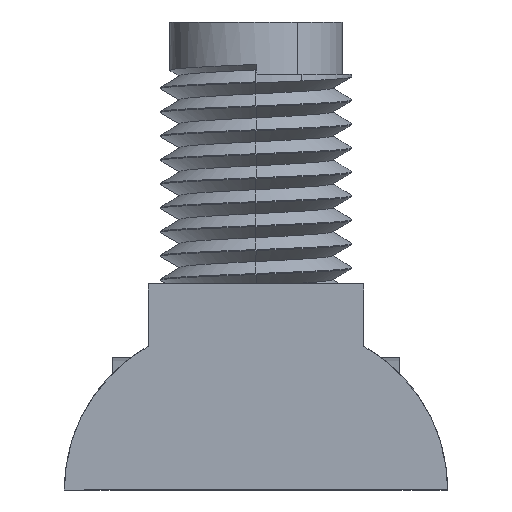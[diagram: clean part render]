
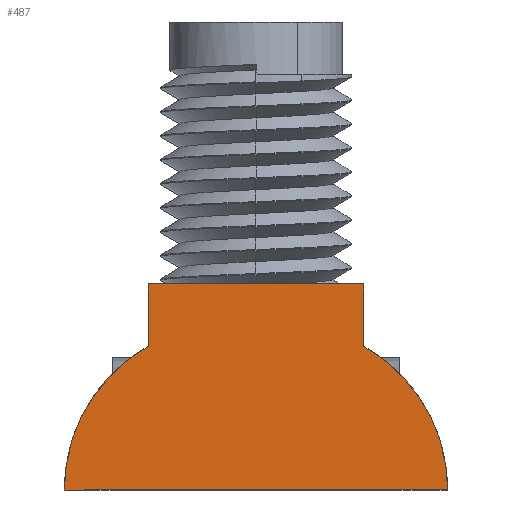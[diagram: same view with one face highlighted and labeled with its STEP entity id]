
A CAD part, front view. The second image highlights one B-rep face of the part: STEP entity #487.
In plain terms, the highlighted planar face has unit normal (0, -1, 0).
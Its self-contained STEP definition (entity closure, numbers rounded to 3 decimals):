
#156=CARTESIAN_POINT('Vertex',(4.,-6.5,0.)) ;
#159=CARTESIAN_POINT('Line Origine',(0.,-6.5,0.)) ;
#163=CARTESIAN_POINT('Vertex',(-4.,-6.5,0.)) ;
#411=CARTESIAN_POINT('Line Origine',(0.,-6.5,4.3)) ;
#415=CARTESIAN_POINT('Vertex',(-2.25,-6.5,4.3)) ;
#417=CARTESIAN_POINT('Vertex',(2.25,-6.5,4.3)) ;
#450=CARTESIAN_POINT('Axis2P3D Location',(0.,-6.5,0.)) ;
#455=CARTESIAN_POINT('Axis2P3D Location',(0.554,-6.5,0.)) ;
#459=CARTESIAN_POINT('Vertex',(2.25,-6.5,3.)) ;
#462=CARTESIAN_POINT('Line Origine',(2.25,-6.5,3.65)) ;
#467=CARTESIAN_POINT('Line Origine',(-2.25,-6.5,3.65)) ;
#471=CARTESIAN_POINT('Vertex',(-2.25,-6.5,3.)) ;
#474=CARTESIAN_POINT('Axis2P3D Location',(-0.554,-6.5,0.)) ;
#160=DIRECTION('Vector Direction',(1.,0.,0.)) ;
#412=DIRECTION('Vector Direction',(1.,0.,0.)) ;
#451=DIRECTION('Axis2P3D Direction',(0.,1.,0.)) ;
#452=DIRECTION('Axis2P3D XDirection',(0.,0.,1.)) ;
#456=DIRECTION('Axis2P3D Direction',(0.,1.,0.)) ;
#463=DIRECTION('Vector Direction',(0.,0.,-1.)) ;
#468=DIRECTION('Vector Direction',(0.,0.,-1.)) ;
#475=DIRECTION('Axis2P3D Direction',(0.,1.,0.)) ;
#453=AXIS2_PLACEMENT_3D('Plane Axis2P3D',#450,#451,#452) ;
#457=AXIS2_PLACEMENT_3D('Circle Axis2P3D',#455,#456,$) ;
#476=AXIS2_PLACEMENT_3D('Circle Axis2P3D',#474,#475,$) ;
#480=ORIENTED_EDGE('',*,*,#165,.T.) ;
#481=ORIENTED_EDGE('',*,*,#461,.F.) ;
#482=ORIENTED_EDGE('',*,*,#466,.F.) ;
#483=ORIENTED_EDGE('',*,*,#419,.F.) ;
#484=ORIENTED_EDGE('',*,*,#473,.F.) ;
#485=ORIENTED_EDGE('',*,*,#478,.F.) ;
#161=VECTOR('Line Direction',#160,1.) ;
#413=VECTOR('Line Direction',#412,1.) ;
#464=VECTOR('Line Direction',#463,1.) ;
#469=VECTOR('Line Direction',#468,1.) ;
#487=ADVANCED_FACE('PartBody',(#486),#454,.F.) ;
#458=CIRCLE('generated circle',#457,3.446) ;
#477=CIRCLE('generated circle',#476,3.446) ;
#165=EDGE_CURVE('',#164,#157,#162,.T.) ;
#419=EDGE_CURVE('',#416,#418,#414,.T.) ;
#461=EDGE_CURVE('',#460,#157,#458,.T.) ;
#466=EDGE_CURVE('',#418,#460,#465,.T.) ;
#473=EDGE_CURVE('',#472,#416,#470,.F.) ;
#478=EDGE_CURVE('',#164,#472,#477,.T.) ;
#479=EDGE_LOOP('',(#480,#481,#482,#483,#484,#485)) ;
#486=FACE_OUTER_BOUND('',#479,.T.) ;
#162=LINE('Line',#159,#161) ;
#414=LINE('Line',#411,#413) ;
#465=LINE('Line',#462,#464) ;
#470=LINE('Line',#467,#469) ;
#454=PLANE('',#453) ;
#157=VERTEX_POINT('',#156) ;
#164=VERTEX_POINT('',#163) ;
#416=VERTEX_POINT('',#415) ;
#418=VERTEX_POINT('',#417) ;
#460=VERTEX_POINT('',#459) ;
#472=VERTEX_POINT('',#471) ;
